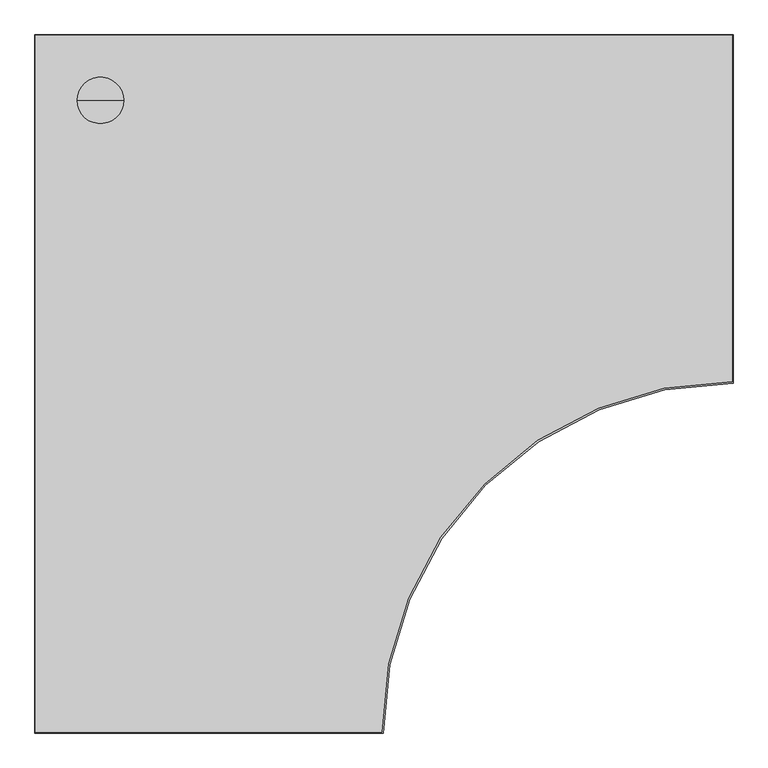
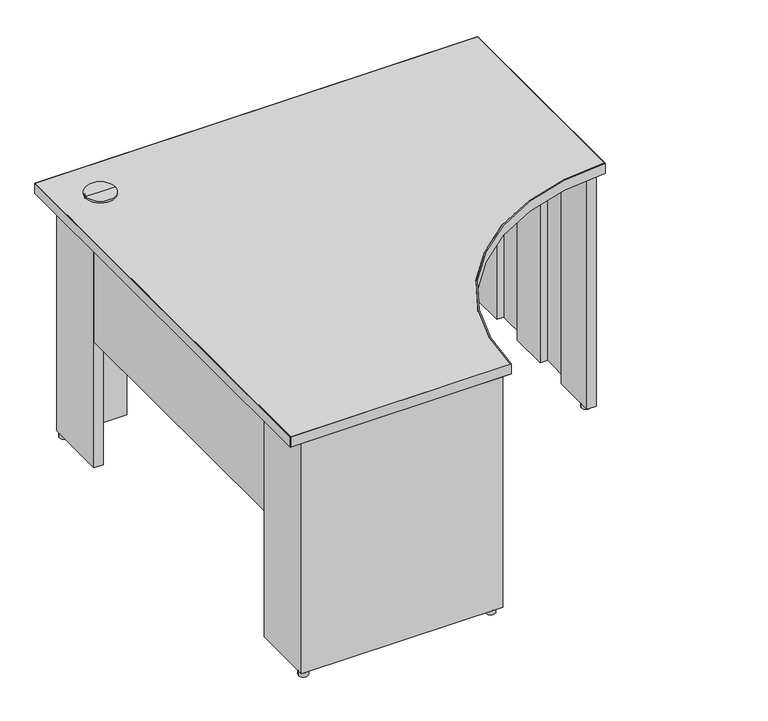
"""IFC4 building model written with IfcOpenShell, lengths in millimetres: furniture geometry, Steelcase - Kick Freestanding - Desk - Curve Corner - Partial Height Modesty Panel : 24D x 48W - Two Full Panel - LPL."""

import ifcopenshell
import ifcopenshell.guid

model = None  # the IFC model being written
_history = None  # IfcOwnerHistory: only IFC2X3 demands one
_inside = {}  # id of a spatial element -> (the spatial element, [elements in it])
_under = {}  # id of a project, library or spatial element -> (it, [spatial elements below it])
_declared = {}  # id of a project -> (the project, [libraries it declares])
_typed = {}  # id of a type object -> (the type object, [elements of that type])
_made_of = {}  # id of a material, layer set ... -> (it, [elements and type objects made of it])


def new_model(schema):
    """Start an empty IFC model of exactly this schema.

    Asked for "IFC4X3", IfcOpenShell would pick the latest addendum, in which some entities
    have other attributes; the version numbers below select the first issue.
    IFC2X3 requires an IfcOwnerHistory on every rooted entity: one is made here for all.
    """
    global model, _history
    if schema == "IFC4X3":
        model = ifcopenshell.file(schema_version=(4, 3, 0, 0))
    else:
        model = ifcopenshell.file(schema=schema)
    _inside.clear()
    _under.clear()
    _declared.clear()
    _typed.clear()
    _made_of.clear()
    _history = None
    if model.schema == "IFC2X3":
        org = make("IfcOrganization", Name="unknown")
        user = make(
            "IfcPersonAndOrganization",
            ThePerson=make("IfcPerson", FamilyName="unknown"),
            TheOrganization=org,
        )
        app = make(
            "IfcApplication",
            ApplicationDeveloper=org,
            Version="unknown",
            ApplicationFullName="unknown",
            ApplicationIdentifier="unknown",
        )
        _history = make(
            "IfcOwnerHistory",
            OwningUser=user,
            OwningApplication=app,
            ChangeAction="ADDED",
            CreationDate=0,
        )
    return model


def make(cls, **values):
    """One entity of the class cls with the attributes given. An attribute that is None is left unset."""
    return model.create_entity(
        cls, **{name: value for name, value in values.items() if value is not None}
    )


def rooted(cls, **values):
    """An entity with a GlobalId (a new one), such as an element, a storey or a relation."""
    return make(cls, GlobalId=ifcopenshell.guid.new(), OwnerHistory=_history, **values)


def si_unit(unit_type, name, prefix=None):
    """IfcSIUnit, for example si_unit("LENGTHUNIT", "METRE", prefix="MILLI")."""
    return make("IfcSIUnit", UnitType=unit_type, Prefix=prefix, Name=name)


def assignment(units):
    """IfcUnitAssignment: the units of a project."""
    return None if units is None else make("IfcUnitAssignment", Units=units)


def point(xyz):
    """IfcCartesianPoint."""
    return None if xyz is None else make("IfcCartesianPoint", Coordinates=xyz)


def direction(xyz):
    """IfcDirection."""
    return None if xyz is None else make("IfcDirection", DirectionRatios=xyz)


def frame(location, z_axis=None, x_axis=None):
    """IfcAxis2Placement3D, a coordinate frame: its origin and axes. An axis left out is left unset."""
    return make(
        "IfcAxis2Placement3D",
        Location=point(location),
        Axis=direction(z_axis),
        RefDirection=direction(x_axis),
    )


def frame_2d(location, x_axis=None):
    """IfcAxis2Placement2D, a coordinate frame in the plane: its origin and x axis."""
    return make(
        "IfcAxis2Placement2D", Location=point(location), RefDirection=direction(x_axis)
    )


def origin():
    """The frame at (0, 0, 0) with its axes left unset."""
    return frame((0.0, 0.0, 0.0))


def origin_with_axes():
    """The frame at (0, 0, 0) with the z axis (0, 0, 1) and the x axis (1, 0, 0) written out."""
    return frame((0.0, 0.0, 0.0), z_axis=(0.0, 0.0, 1.0), x_axis=(1.0, 0.0, 0.0))


def place(relative_to, where):
    """IfcLocalPlacement: puts the frame where relative to a parent placement (None: the world)."""
    return make(
        "IfcLocalPlacement", PlacementRelTo=relative_to, RelativePlacement=where
    )


def context(
    kind, dimensions, precision=None, world=None, true_north=None, identifier=None
):
    """IfcGeometricRepresentationContext, for example the 3D "Model" context."""
    return make(
        "IfcGeometricRepresentationContext",
        ContextIdentifier=identifier,
        ContextType=kind,
        CoordinateSpaceDimension=dimensions,
        Precision=precision,
        WorldCoordinateSystem=world,
        TrueNorth=true_north,
    )


def project(units=None, contexts=None):
    """IfcProject with its units and contexts."""
    return rooted(
        "IfcProject",
        Name="project",
        RepresentationContexts=contexts,
        UnitsInContext=assignment(units),
    )


def spatial(cls, under=None, at=None, **own):
    """A site, building, storey or space (cls), placed at a placement, below another one or the project."""
    s = rooted(cls, ObjectPlacement=at, **own)
    if under is not None:
        _under.setdefault(under.id(), (under, []))[1].append(s)
    return s


def polyline(points):
    """IfcPolyline through the points."""
    return make("IfcPolyline", Points=[point(p) for p in points])


def circle_curve(where, radius):
    """IfcCircle in the frame where."""
    return make("IfcCircle", Position=where, Radius=radius)


def trimmed(basis, trim1, trim2, sense, master):
    """IfcTrimmedCurve: the piece of a basis curve between two trims."""
    return make(
        "IfcTrimmedCurve",
        BasisCurve=basis,
        Trim1=trim1,
        Trim2=trim2,
        SenseAgreement=sense,
        MasterRepresentation=master,
    )


def segment(curve, same_sense, transition):
    """IfcCompositeCurveSegment."""
    return make(
        "IfcCompositeCurveSegment",
        Transition=transition,
        SameSense=same_sense,
        ParentCurve=curve,
    )


def composite_curve(segments, self_intersect=None):
    """IfcCompositeCurve: segments joined end to end."""
    return make("IfcCompositeCurve", Segments=segments, SelfIntersect=self_intersect)


def outline(outer, holes=None, kind="AREA"):
    """IfcArbitraryClosedProfileDef: a profile drawn as a closed curve; with holes, ...WithVoids."""
    if holes is None:
        return make("IfcArbitraryClosedProfileDef", ProfileType=kind, OuterCurve=outer)
    return make(
        "IfcArbitraryProfileDefWithVoids",
        ProfileType=kind,
        OuterCurve=outer,
        InnerCurves=holes,
    )


def extrude(swept, where, along, depth):
    """IfcExtrudedAreaSolid: the profile swept, set in the frame where, extruded along a direction by depth."""
    return make(
        "IfcExtrudedAreaSolid",
        SweptArea=swept,
        Position=where,
        ExtrudedDirection=direction(along),
        Depth=depth,
    )


def shape(context_of_items, identifier, shape_type, items):
    """IfcShapeRepresentation: the items that make up one representation, for example the "Body"."""
    return make(
        "IfcShapeRepresentation",
        ContextOfItems=context_of_items,
        RepresentationIdentifier=identifier,
        RepresentationType=shape_type,
        Items=items,
    )


def source(mapping_origin, context_of_items, identifier, shape_type, items):
    """IfcRepresentationMap: a shape defined once, which mapped items show again and again."""
    return make(
        "IfcRepresentationMap",
        MappingOrigin=mapping_origin,
        MappedRepresentation=shape(context_of_items, identifier, shape_type, items),
    )


def transform(
    local_origin,
    x_axis=None,
    y_axis=None,
    z_axis=None,
    scale=None,
    scale2=None,
    scale3=None,
    uniform=True,
):
    """IfcCartesianTransformationOperator3D, or its non-uniform kind. x_axis, y_axis, z_axis: its Axis1, 2, 3."""
    if uniform:
        return make(
            "IfcCartesianTransformationOperator3D",
            Axis1=direction(x_axis),
            Axis2=direction(y_axis),
            LocalOrigin=point(local_origin),
            Scale=scale,
            Axis3=direction(z_axis),
        )
    return make(
        "IfcCartesianTransformationOperator3DnonUniform",
        Axis1=direction(x_axis),
        Axis2=direction(y_axis),
        LocalOrigin=point(local_origin),
        Scale=scale,
        Axis3=direction(z_axis),
        Scale2=scale2,
        Scale3=scale3,
    )


def mapped(mapping_source, mapping_target):
    """IfcMappedItem: shows the shape of a source again, moved by a transform."""
    return make(
        "IfcMappedItem", MappingSource=mapping_source, MappingTarget=mapping_target
    )


def made_of(thing, what):
    """Note that an element or type object is made of a material, layer set ...; save() writes the relation."""
    if what is not None:
        _made_of.setdefault(what.id(), (what, []))[1].append(thing)
    return thing


def element(
    cls,
    number,
    at=None,
    inside=None,
    cuts=None,
    type_object=None,
    material=None,
    context=None,
    identifier="Body",
    shape_type=None,
    held_by="IfcProductDefinitionShape",
    body=None,
    shapes=None,
    **own,
):
    """One element of the class cls, such as IfcWall. Its Tag is "e" and its number.

    at: its placement. inside: the storey or other place that contains it. cuts: it is an
    opening in that element (IfcRelVoidsElement). A single representation is given by context,
    identifier, shape_type and body (its items); several are given by shapes. held_by: the class
    of the entity that holds the representations. save() writes the other relations.
    """
    e = rooted(cls, Tag="e%d" % number, ObjectPlacement=at, **own)
    if body is not None:
        shapes = [shape(context, identifier, shape_type, body)]
    if shapes is not None:
        e.Representation = make(held_by, Representations=shapes)
    if inside is not None:
        _inside.setdefault(inside.id(), (inside, []))[1].append(e)
    if cuts is not None:
        rooted(
            "IfcRelVoidsElement", RelatingBuildingElement=cuts, RelatedOpeningElement=e
        )
    if type_object is not None:
        _typed.setdefault(type_object.id(), (type_object, []))[1].append(e)
    return made_of(e, material)


def aggregate(whole, parts):
    """IfcRelAggregates: a whole, such as a stair, and the parts it consists of."""
    return rooted("IfcRelAggregates", RelatingObject=whole, RelatedObjects=parts)


def save(model, path):
    """Write the relations noted so far, then the file.

    IfcRelAggregates (storeys below a building ...), IfcRelContainedInSpatialStructure (elements
    in a storey), IfcRelDefinesByType, IfcRelAssociatesMaterial and IfcRelDeclares: one each for
    every whole, place, type object, material and project.
    """
    for whole, parts in _under.values():
        aggregate(whole, parts)
    for where, things in _inside.values():
        rooted(
            "IfcRelContainedInSpatialStructure",
            RelatedElements=things,
            RelatingStructure=where,
        )
    for kind, things in _typed.values():
        rooted("IfcRelDefinesByType", RelatedObjects=things, RelatingType=kind)
    for what, things in _made_of.values():
        rooted("IfcRelAssociatesMaterial", RelatedObjects=things, RelatingMaterial=what)
    for by, libraries in _declared.values():
        rooted("IfcRelDeclares", RelatingContext=by, RelatedDefinitions=libraries)
    model.write(path)


def plane_surface(at):
    """IfcPlane: the flat surface through the origin of the frame at, square to its z axis."""
    return make("IfcPlane", Position=at)


def cylinder_surface(at, radius):
    """IfcCylindricalSurface: all points at the distance radius from the z axis of the frame at."""
    return make("IfcCylindricalSurface", Position=at, Radius=radius)


def advanced_brep(points, edges, surfaces, faces):
    """IfcAdvancedBrep: a solid bounded by faces that lie on surfaces and meet in shared edges.

    An edge is (start, end): straight between two places in points (the first is 0);
    or (start, end, curve); or (start, end, curve, False) where it runs against its curve.
    A face is (place in surfaces, loops), or (place, loops, False) where it looks against
    its surface's normal. A loop lists edges by number (the first is 1), with a minus sign
    where the edge is run from its end to its start. The first loop is the outer one.
    """
    corners = [point(p) for p in points]
    vertices = [make("IfcVertexPoint", VertexGeometry=c) for c in corners]
    made = []
    for start, end, *more in edges:
        made.append(
            make(
                "IfcEdgeCurve",
                EdgeStart=vertices[start],
                EdgeEnd=vertices[end],
                EdgeGeometry=more[0] if more else make("IfcPolyline", Points=[corners[start], corners[end]]),
                SameSense=more[1] if len(more) > 1 else True,
            )
        )
    hull = []
    for where, loops, *sense in faces:
        bounds = []
        for j, loop in enumerate(loops):
            ring = [make("IfcOrientedEdge", EdgeElement=made[abs(k) - 1], Orientation=k > 0) for k in loop]
            bounds.append(
                make(
                    "IfcFaceOuterBound" if j == 0 else "IfcFaceBound",
                    Bound=make("IfcEdgeLoop", EdgeList=ring),
                    Orientation=True,
                )
            )
        hull.append(make("IfcAdvancedFace", Bounds=bounds, FaceSurface=surfaces[where], SameSense=sense[0] if sense else True))
    return make("IfcAdvancedBrep", Outer=make("IfcClosedShell", CfsFaces=hull))


def furniture_4d5ed821(model_context):
    return source(origin(), model_context, "Body", "SolidModel", [
        extrude(outline(composite_curve([segment(trimmed(circle_curve(frame_2d((1191.2853521, -565.8064761)), 12.7), [point((1178.5853521, -565.8064761))], [point((1203.9853521, -565.8064761))], False, "CARTESIAN"), True, "CONTINUOUS"), segment(trimmed(circle_curve(frame_2d((1191.2853521, -565.8064761)), 12.7), [point((1203.9853521, -565.8064761))], [point((1178.5853521, -565.8064761))], False, "CARTESIAN"), True, "CONTINUOUS")], self_intersect=False)), origin_with_axes(), (0.0, 0.0, 1.0), 12.446),
        extrude(outline(composite_curve([segment(trimmed(circle_curve(frame_2d((566.7971133, -1192.2759893)), 12.7), [point((554.0971133, -1192.2759893))], [point((579.4971133, -1192.2759893))], False, "CARTESIAN"), True, "CONTINUOUS"), segment(trimmed(circle_curve(frame_2d((566.7971133, -1192.2759893)), 12.7), [point((579.4971133, -1192.2759893))], [point((554.0971133, -1192.2759893))], False, "CARTESIAN"), True, "CONTINUOUS")], self_intersect=False)), origin_with_axes(), (0.0, 0.0, 1.0), 12.446),
        extrude(outline(polyline([(215.8999939, -63.5), (63.5, -63.5), (63.5, -215.8999939), (38.1, -215.8999939), (38.1, -38.1), (215.8999939, -38.1), (215.8999939, -63.5)])), frame((0.0, 0.0, 12.446), z_axis=(0.0, 0.0, 1.0), x_axis=(1.0, 0.0, 0.0)), (0.0, 0.0, 1.0), 682.498),
        extrude(outline(polyline([(63.5, -1027.4300194), (63.5, -1179.8300194), (161.3662, -1179.8300194), (161.3662, -1199.4895822), (261.0866, -1199.4895822), (261.0866, -1179.8300194), (369.824, -1179.8300194), (369.824, -1199.4895822), (469.5444, -1199.4895822), (469.5444, -1179.8300194), (592.582, -1179.8300194), (592.582, -1205.2299952), (38.1, -1205.2299952), (38.1, -1027.4300194), (63.5, -1027.4300194)])), frame((0.0, 0.0, 12.446), z_axis=(0.0, 0.0, 1.0), x_axis=(1.0, 0.0, 0.0)), (0.0, 0.0, 1.0), 682.498),
        extrude(outline(polyline([(1026.4393822, -63.5), (1026.4393822, -38.1), (1204.2393579, -38.1), (1204.2393579, -592.582), (1178.3313463, -592.582), (1178.3313463, -469.5444), (1198.498945, -469.5444), (1198.498945, -369.824), (1178.3313463, -369.824), (1178.3313463, -261.0866), (1198.498945, -261.0866), (1198.498945, -161.3662), (1178.3313463, -161.3662), (1178.3313463, -63.5), (1026.4393822, -63.5)])), frame((0.0, 0.0, 12.446), z_axis=(0.0, 0.0, 1.0), x_axis=(1.0, 0.0, 0.0)), (0.0, 0.0, 1.0), 682.498),
        advanced_brep(
        [(114.3, -114.3, 728.98), (154.94, -114.3, 728.98), (73.66, -114.3, 728.98), (76.1699693, -114.3, 694.944), (152.4300307, -114.3, 694.944), (114.3, -114.3, 694.944), (76.1699693, -114.3, 723.9), (152.4300307, -114.3, 723.9), (73.66, -114.3, 723.9), (154.94, -114.3, 723.9)],
        [
            (0, 1),
            (1, 2, circle_curve(frame((114.3, -114.3, 728.98), z_axis=(0.0, 0.0, 1.0), x_axis=(1.0, 0.0, 0.0)), 40.64)),
            (2, 0),
            (2, 1, circle_curve(frame((114.3, -114.3, 728.98), z_axis=(0.0, 0.0, 1.0), x_axis=(1.0, 0.0, 0.0)), 40.64)),
            (3, 4, circle_curve(frame((114.3, -114.3, 694.944), z_axis=(0.0, 0.0, -1.0), x_axis=(1.0, 0.0, 0.0)), 38.1300307)),
            (4, 5),
            (5, 3),
            (4, 3, circle_curve(frame((114.3, -114.3, 694.944), z_axis=(0.0, 0.0, -1.0), x_axis=(1.0, 0.0, 0.0)), 38.1300307)),
            (6, 7, circle_curve(frame((114.3, -114.3, 723.9), z_axis=(0.0, 0.0, -1.0), x_axis=(1.0, 0.0, 0.0)), 38.1300307)),
            (7, 4),
            (3, 6),
            (7, 6, circle_curve(frame((114.3, -114.3, 723.9), z_axis=(0.0, 0.0, -1.0), x_axis=(1.0, 0.0, 0.0)), 38.1300307)),
            (8, 9, circle_curve(frame((114.3, -114.3, 723.9), z_axis=(0.0, 0.0, -1.0), x_axis=(1.0, 0.0, 0.0)), 40.64)),
            (9, 7),
            (6, 8),
            (9, 8, circle_curve(frame((114.3, -114.3, 723.9), z_axis=(0.0, 0.0, -1.0), x_axis=(1.0, 0.0, 0.0)), 40.64)),
            (1, 9),
            (8, 2),
        ],
        [
            plane_surface(frame((114.3, -114.3, 728.98), z_axis=(0.0, 0.0, 1.0), x_axis=(1.0, 0.0, 0.0))),
            plane_surface(frame((114.3, -114.3, 694.944), z_axis=(0.0, 0.0, -1.0), x_axis=(1.0, 0.0, 0.0))),
            cylinder_surface(frame((114.3, -114.3, 728.98), z_axis=(0.0, 0.0, 1.0), x_axis=(1.0, 0.0, 0.0)), 38.1300307),
            plane_surface(frame((114.3, -114.3, 723.9), z_axis=(0.0, 0.0, -1.0), x_axis=(1.0, 0.0, 0.0))),
            cylinder_surface(frame((114.3, -114.3, 728.98), z_axis=(0.0, 0.0, 1.0), x_axis=(1.0, 0.0, 0.0)), 40.64),
        ],
        [
            (0, [[1, 2, 3]]),
            (0, [[-3, 4, -1]]),
            (1, [[5, 6, 7]]),
            (1, [[8, -7, -6]]),
            (2, [[9, 10, -5, 11]]),
            (2, [[12, -11, -8, -10]]),
            (3, [[13, 14, -9, 15]]),
            (3, [[16, -15, -12, -14]]),
            (4, [[-2, 17, -13, 18]]),
            (4, [[-4, -18, -16, -17]]),
        ],
    ),
        extrude(outline(composite_curve([segment(trimmed(circle_curve(frame_2d((50.8, -50.8)), 12.7), [point((38.1, -50.8))], [point((63.5, -50.8))], False, "CARTESIAN"), True, "CONTINUOUS"), segment(trimmed(circle_curve(frame_2d((50.8, -50.8)), 12.7), [point((63.5, -50.8))], [point((38.1, -50.8))], False, "CARTESIAN"), True, "CONTINUOUS")], self_intersect=False)), origin_with_axes(), (0.0, 0.0, 1.0), 12.446),
        extrude(outline(composite_curve([segment(trimmed(circle_curve(frame_2d((50.8, -1192.5300073)), 12.7484998), [point((38.0515002, -1192.5300073))], [point((63.5484998, -1192.5300073))], False, "CARTESIAN"), True, "CONTINUOUS"), segment(trimmed(circle_curve(frame_2d((50.8, -1192.5300073)), 12.7484998), [point((63.5484998, -1192.5300073))], [point((38.0515002, -1192.5300073))], False, "CARTESIAN"), True, "CONTINUOUS")], self_intersect=False)), origin_with_axes(), (0.0, 0.0, 1.0), 12.446),
        extrude(outline(composite_curve([segment(trimmed(circle_curve(frame_2d((1191.2853521, -50.8)), 12.7), [point((1178.5853521, -50.8))], [point((1203.9853521, -50.8))], False, "CARTESIAN"), True, "CONTINUOUS"), segment(trimmed(circle_curve(frame_2d((1191.2853521, -50.8)), 12.7), [point((1203.9853521, -50.8))], [point((1178.5853521, -50.8))], False, "CARTESIAN"), True, "CONTINUOUS")], self_intersect=False)), origin_with_axes(), (0.0, 0.0, 1.0), 12.446),
        extrude(outline(polyline([(63.5, -215.8999939), (63.5, -1027.4300194), (38.1, -1027.4300194), (38.1, -215.8999939), (63.5, -215.8999939)])), frame((0.0, 0.0, 379.476), z_axis=(0.0, 0.0, 1.0), x_axis=(1.0, 0.0, 0.0)), (0.0, 0.0, 1.0), 315.468),
        extrude(outline(polyline([(1026.4393822, -38.1), (1026.4393822, -63.5), (215.8999939, -63.5), (215.8999939, -38.1), (1026.4393822, -38.1)])), frame((0.0, 0.0, 379.476), z_axis=(0.0, 0.0, 1.0), x_axis=(1.0, 0.0, 0.0)), (0.0, 0.0, 1.0), 315.468),
        extrude(outline(composite_curve([segment(polyline([(0.9906, -1218.2093628), (0.9906, -0.9906), (1218.2093628, -0.9906), (1218.2093628, -605.3354109)]), True, "CONTINUOUS"), segment(trimmed(circle_curve(frame_2d((1216.9393458, -1216.9393458)), 611.6052536), [point((1218.2093628, -605.3354109))], [point((605.3354109, -1218.2093628))], True, "CARTESIAN"), True, "CONTINUOUS"), segment(polyline([(605.3354109, -1218.2093628), (0.9906, -1218.2093628)]), True, "CONTINUOUS")], self_intersect=False)), frame((0.0, 0.0, 694.944), z_axis=(0.0, 0.0, 1.0), x_axis=(1.0, 0.0, 0.0)), (0.0, 0.0, 1.0), 28.956),
        extrude(outline(composite_curve([segment(polyline([(1219.2, 0.0), (1219.2, -608.332629)]), True, "CONTINUOUS"), segment(trimmed(circle_curve(frame_2d((1217.929983, -1217.929983)), 609.598677), [point((1219.2, -608.332629))], [point((608.332629, -1219.2))], True, "CARTESIAN"), True, "CONTINUOUS"), segment(polyline([(608.332629, -1219.2), (0.0, -1219.2), (0.0, 0.0), (1219.2, 0.0)]), True, "CONTINUOUS")], self_intersect=False), holes=[composite_curve([segment(polyline([(1218.2093628, -0.9906), (0.9906, -0.9906), (0.9906, -1218.2093628), (605.3354109, -1218.2093628)]), True, "CONTINUOUS"), segment(trimmed(circle_curve(frame_2d((1216.9393458, -1216.9393458)), 611.6052536), [point((605.3354109, -1218.2093628))], [point((1218.2093628, -605.3354109))], False, "CARTESIAN"), True, "CONTINUOUS"), segment(polyline([(1218.2093628, -605.3354109), (1218.2093628, -0.9906)]), True, "CONTINUOUS")], self_intersect=False)]), frame((0.0, 0.0, 694.944), z_axis=(0.0, 0.0, 1.0), x_axis=(1.0, 0.0, 0.0)), (0.0, 0.0, 1.0), 28.956),
    ])


if __name__ == "__main__":
    model = new_model("IFC4")
    model_context = context("Model", 3, world=origin())
    ifc_project = project(units=[si_unit("LENGTHUNIT", "METRE", prefix="MILLI")], contexts=[model_context])
    site = spatial("IfcSite", under=ifc_project)
    building = spatial("IfcBuilding", under=site)
    placement = place(None, origin())
    furniture_shape = furniture_4d5ed821(model_context)
    element("IfcFurniture", 1, ObjectType="Steelcase - Kick Freestanding - Desk - Curve Corner - Partial Height Modesty Panel : 24D x 48W - Two Full Panel - LPL", at=placement, inside=building, context=model_context, shape_type="MappedRepresentation", body=[
        mapped(furniture_shape, transform((0.0, 0.0, 0.0), x_axis=(1.0, 0.0, 0.0), y_axis=(0.0, 1.0, 0.0), z_axis=(0.0, 0.0, 1.0))),
    ])
    save(model, "model.ifc")
